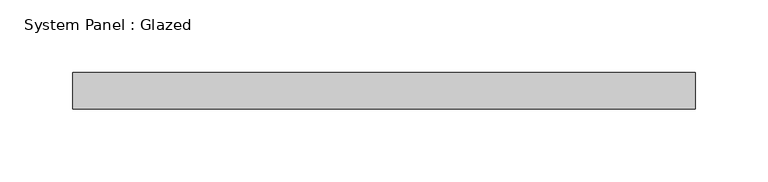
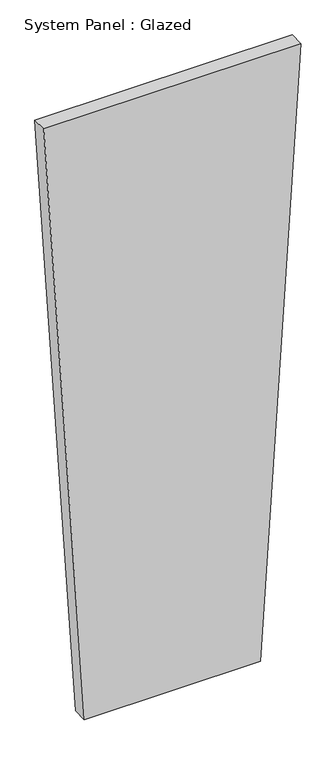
"""IFC4 building model written with IfcOpenShell, lengths in millimetres: plate geometry, System Panel : Glazed."""

from ifc_helpers import new_model, si_unit, frame, origin, place, context, project, spatial, polyline, outline, extrude, source, transform, mapped, element, save


def system_panel_glazed_b27e74bc(model_context):
    return source(origin(), model_context, "Body", "SweptSolid", [
        extrude(outline(polyline([(0.0, -146.9654679), (0.0, 146.9654679), (1064.6408225, 214.8046825), (1064.6408225, -214.8046825), (0.0, -146.9654679)])), frame((0.0, -44.45, 0.0), z_axis=(0.0, 1.0, 0.0), x_axis=(0.0, 0.0, 1.0)), (0.0, 0.0, 1.0), 25.4),
    ])


if __name__ == "__main__":
    model = new_model("IFC4")
    model_context = context("Model", 3, world=origin())
    ifc_project = project(units=[si_unit("LENGTHUNIT", "METRE", prefix="MILLI")], contexts=[model_context])
    site = spatial("IfcSite", under=ifc_project)
    building = spatial("IfcBuilding", under=site)
    placement = place(None, origin())
    system_panel_glazed_shape = system_panel_glazed_b27e74bc(model_context)
    element("IfcPlate", 1, ObjectType="System Panel : Glazed", at=placement, inside=building, context=model_context, shape_type="MappedRepresentation", body=[
        mapped(system_panel_glazed_shape, transform((0.0, 0.0, 0.0), x_axis=(1.0, 0.0, 0.0), y_axis=(0.0, 1.0, 0.0), z_axis=(0.0, 0.0, 1.0))),
    ])
    save(model, "model.ifc")
